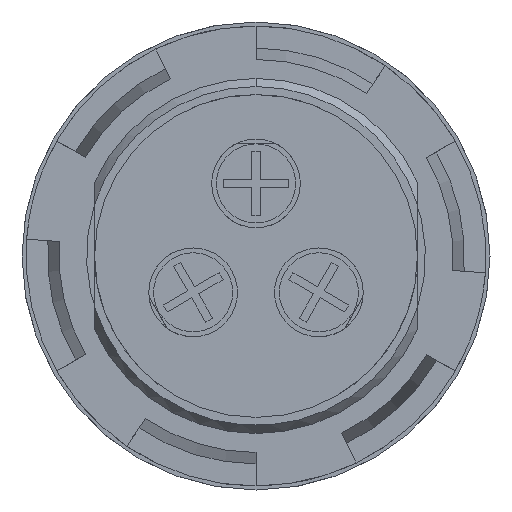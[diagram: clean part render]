
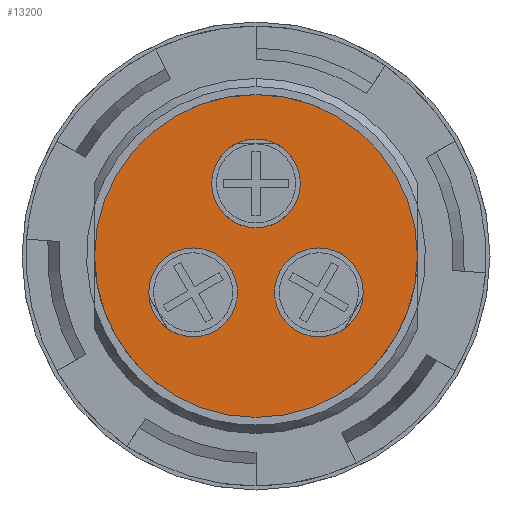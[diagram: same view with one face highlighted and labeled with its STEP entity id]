
A CAD part, front view. The second image highlights one B-rep face of the part: STEP entity #13200.
In plain terms, the highlighted planar face has unit normal (0, -1, 0).
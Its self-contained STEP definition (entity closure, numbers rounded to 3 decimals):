
#419 = DIRECTION ( 'NONE',  ( 0., 0., -1. ) ) ;
#859 = AXIS2_PLACEMENT_3D ( 'NONE', #4548, #16004, #6215 ) ;
#1181 = CIRCLE ( 'NONE', #859, 2.75 ) ;
#1209 = EDGE_LOOP ( 'NONE', ( #19948, #19507 ) ) ;
#1508 = ORIENTED_EDGE ( 'NONE', *, *, #18950, .F. ) ;
#1776 = CARTESIAN_POINT ( 'NONE',  ( 3.897, -55., -2.25 ) ) ;
#1955 = EDGE_CURVE ( 'NONE', #19852, #4432, #1181, .T. ) ;
#2211 = EDGE_LOOP ( 'NONE', ( #6234, #21284 ) ) ;
#2488 = PLANE ( 'NONE',  #14987 ) ;
#2614 = CARTESIAN_POINT ( 'NONE',  ( 0., -55., 4.5 ) ) ;
#2992 = CARTESIAN_POINT ( 'NONE',  ( 0., -55., 0. ) ) ;
#3222 = EDGE_LOOP ( 'NONE', ( #13522, #1508 ) ) ;
#3410 = DIRECTION ( 'NONE',  ( -0.866, 0., 0.5 ) ) ;
#4147 = CARTESIAN_POINT ( 'NONE',  ( 0., -55., 0. ) ) ;
#4264 = FACE_OUTER_BOUND ( 'NONE', #2211, .T. ) ;
#4269 = DIRECTION ( 'NONE',  ( 0., 0., -1. ) ) ;
#4432 = VERTEX_POINT ( 'NONE', #12553 ) ;
#4548 = CARTESIAN_POINT ( 'NONE',  ( -3.897, -55., -2.25 ) ) ;
#4650 = DIRECTION ( 'NONE',  ( 0., 0., -1. ) ) ;
#4879 = CARTESIAN_POINT ( 'NONE',  ( -3.897, -55., -2.25 ) ) ;
#5045 = VERTEX_POINT ( 'NONE', #10518 ) ;
#5898 = AXIS2_PLACEMENT_3D ( 'NONE', #2992, #14463, #4650 ) ;
#6104 = VERTEX_POINT ( 'NONE', #14766 ) ;
#6215 = DIRECTION ( 'NONE',  ( 0.866, 0., 0.5 ) ) ;
#6234 = ORIENTED_EDGE ( 'NONE', *, *, #20416, .T. ) ;
#6334 = AXIS2_PLACEMENT_3D ( 'NONE', #4879, #16342, #6535 ) ;
#6535 = DIRECTION ( 'NONE',  ( 0.866, 0., 0.5 ) ) ;
#6870 = CARTESIAN_POINT ( 'NONE',  ( 3.897, -55., 0.5 ) ) ;
#7073 = EDGE_CURVE ( 'NONE', #17451, #6104, #15888, .T. ) ;
#7777 = CARTESIAN_POINT ( 'NONE',  ( 0., -55., 7.25 ) ) ;
#8250 = DIRECTION ( 'NONE',  ( 0., -1., 0. ) ) ;
#8447 = AXIS2_PLACEMENT_3D ( 'NONE', #1776, #13220, #3410 ) ;
#8516 = DIRECTION ( 'NONE',  ( 0., -1., 0. ) ) ;
#8614 = FACE_BOUND ( 'NONE', #19229, .T. ) ;
#9529 = EDGE_CURVE ( 'NONE', #9966, #12345, #16153, .T. ) ;
#9966 = VERTEX_POINT ( 'NONE', #15344 ) ;
#10213 = CIRCLE ( 'NONE', #20193, 10. ) ;
#10235 = DIRECTION ( 'NONE',  ( 0., -1., 0. ) ) ;
#10518 = CARTESIAN_POINT ( 'NONE',  ( 0., -55., 10. ) ) ;
#11443 = CIRCLE ( 'NONE', #6334, 2.75 ) ;
#11593 = AXIS2_PLACEMENT_3D ( 'NONE', #18354, #8516, #20009 ) ;
#11888 = ORIENTED_EDGE ( 'NONE', *, *, #15672, .F. ) ;
#12345 = VERTEX_POINT ( 'NONE', #7777 ) ;
#12443 = EDGE_CURVE ( 'NONE', #4432, #19852, #11443, .T. ) ;
#12458 = FACE_BOUND ( 'NONE', #1209, .T. ) ;
#12553 = CARTESIAN_POINT ( 'NONE',  ( -3.897, -55., 0.5 ) ) ;
#12561 = VERTEX_POINT ( 'NONE', #18314 ) ;
#13200 = ADVANCED_FACE ( 'NONE', ( #8614, #12458, #16807, #4264 ), #2488, .T. ) ;
#13220 = DIRECTION ( 'NONE',  ( 0., -1., 0. ) ) ;
#13522 = ORIENTED_EDGE ( 'NONE', *, *, #9529, .F. ) ;
#14090 = DIRECTION ( 'NONE',  ( 0., -1., 0. ) ) ;
#14463 = DIRECTION ( 'NONE',  ( 0., -1., 0. ) ) ;
#14766 = CARTESIAN_POINT ( 'NONE',  ( 3.897, -55., -5. ) ) ;
#14987 = AXIS2_PLACEMENT_3D ( 'NONE', #4147, #18500, #15599 ) ;
#15344 = CARTESIAN_POINT ( 'NONE',  ( 0., -55., 1.75 ) ) ;
#15599 = DIRECTION ( 'NONE',  ( 0., 0., -1. ) ) ;
#15672 = EDGE_CURVE ( 'NONE', #6104, #17451, #16035, .T. ) ;
#15888 = CIRCLE ( 'NONE', #8447, 2.75 ) ;
#15955 = ORIENTED_EDGE ( 'NONE', *, *, #7073, .F. ) ;
#16004 = DIRECTION ( 'NONE',  ( 0., -1., 0. ) ) ;
#16035 = CIRCLE ( 'NONE', #19445, 2.75 ) ;
#16153 = CIRCLE ( 'NONE', #17978, 2.75 ) ;
#16342 = DIRECTION ( 'NONE',  ( 0., -1., 0. ) ) ;
#16501 = CARTESIAN_POINT ( 'NONE',  ( -3.897, -55., -5. ) ) ;
#16609 = CIRCLE ( 'NONE', #5898, 10. ) ;
#16807 = FACE_BOUND ( 'NONE', #3222, .T. ) ;
#17451 = VERTEX_POINT ( 'NONE', #6870 ) ;
#17978 = AXIS2_PLACEMENT_3D ( 'NONE', #2614, #14090, #4269 ) ;
#18086 = CARTESIAN_POINT ( 'NONE',  ( 3.897, -55., -2.25 ) ) ;
#18314 = CARTESIAN_POINT ( 'NONE',  ( 0., -55., -10. ) ) ;
#18354 = CARTESIAN_POINT ( 'NONE',  ( 0., -55., 4.5 ) ) ;
#18500 = DIRECTION ( 'NONE',  ( 0., -1., 0. ) ) ;
#18950 = EDGE_CURVE ( 'NONE', #12345, #9966, #19031, .T. ) ;
#19031 = CIRCLE ( 'NONE', #11593, 2.75 ) ;
#19229 = EDGE_LOOP ( 'NONE', ( #11888, #15955 ) ) ;
#19445 = AXIS2_PLACEMENT_3D ( 'NONE', #18086, #8250, #19736 ) ;
#19507 = ORIENTED_EDGE ( 'NONE', *, *, #12443, .F. ) ;
#19736 = DIRECTION ( 'NONE',  ( -0.866, 0., 0.5 ) ) ;
#19852 = VERTEX_POINT ( 'NONE', #16501 ) ;
#19948 = ORIENTED_EDGE ( 'NONE', *, *, #1955, .F. ) ;
#20009 = DIRECTION ( 'NONE',  ( 0., 0., -1. ) ) ;
#20080 = CARTESIAN_POINT ( 'NONE',  ( 0., -55., 0. ) ) ;
#20193 = AXIS2_PLACEMENT_3D ( 'NONE', #20080, #10235, #419 ) ;
#20416 = EDGE_CURVE ( 'NONE', #5045, #12561, #16609, .T. ) ;
#20492 = EDGE_CURVE ( 'NONE', #12561, #5045, #10213, .T. ) ;
#21284 = ORIENTED_EDGE ( 'NONE', *, *, #20492, .T. ) ;
